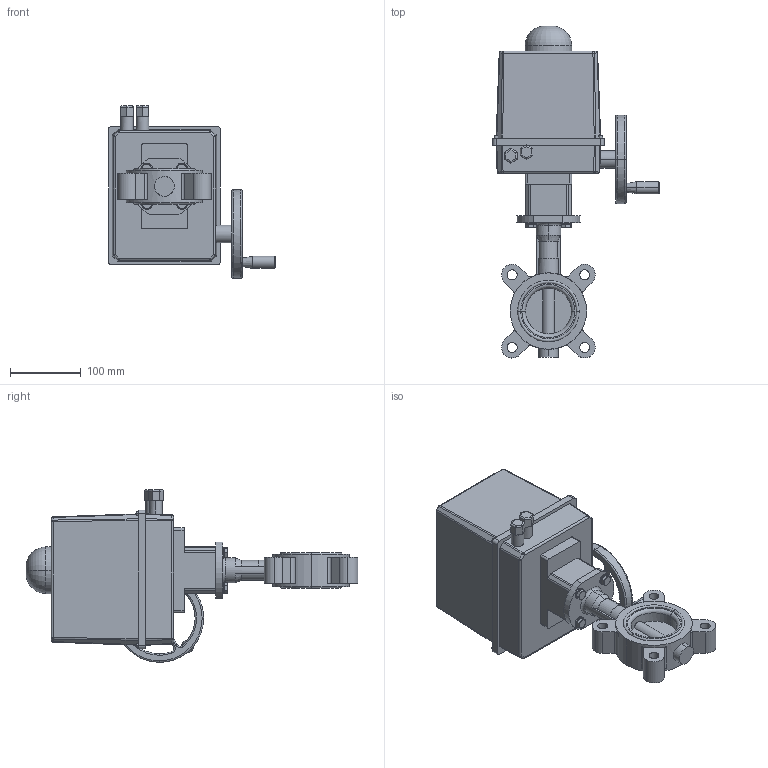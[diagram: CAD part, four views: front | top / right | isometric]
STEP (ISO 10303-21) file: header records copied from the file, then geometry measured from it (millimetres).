
FILE_DESCRIPTION (( 'STEP AP214' ), '1' );
FILE_NAME ('67661.step', '2020-10-26T06:44:18', ( '' ), ( '' ), 'SwSTEP 2.0', 'SolidWorks 2019', '' );
FILE_SCHEMA (( 'AUTOMOTIVE_DESIGN' ));
Length unit declared in the file: millimetre
Products named in the file (6): 67661; 6kt-Schr DIN 933_M8x25; U-Scheibe DIN 125 A_M8; TL20-0065_M01; Steckkupplung PSQ 103_PSQ 103 VK-11; PSQ 103_PSQ 103-36-24VDC-F07
Assembly tree (11 placements, depth 2):
  67661
    TL20-0065_M01
    PSQ 103_PSQ 103-36-24VDC-F07
    Steckkupplung PSQ 103_PSQ 103 VK-11
    6kt-Schr DIN 933_M8x25  x4
    U-Scheibe DIN 125 A_M8  x4
Bounding box: 236 x 469.24 x 244 mm (x, y, z)
Volume: 5622045.7 mm3; surface area: 331163.1 mm2
Topology: 11 solids, 11 shells, 795 faces, 2023 edges, 1252 vertices
Faces by surface type: cylinder 335, plane 318, torus 64, cone 56, sphere 16, bspline 6
Entity records: 25517 total; most frequent: CARTESIAN_POINT 4600, DIRECTION 3855, ORIENTED_EDGE 3566, EDGE_CURVE 1783, AXIS2_PLACEMENT_3D 1459, VERTEX_POINT 1132, LINE 937, VECTOR 937
